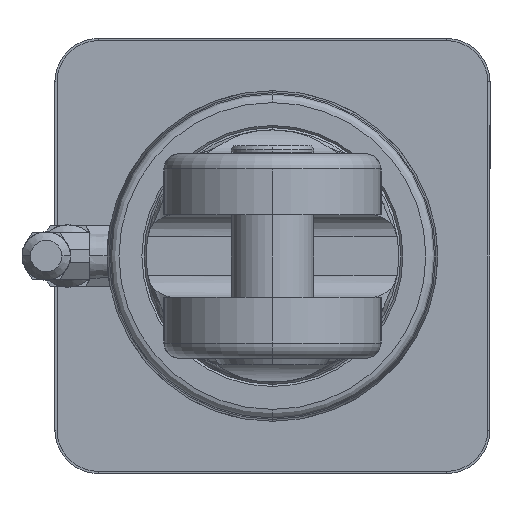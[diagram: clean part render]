
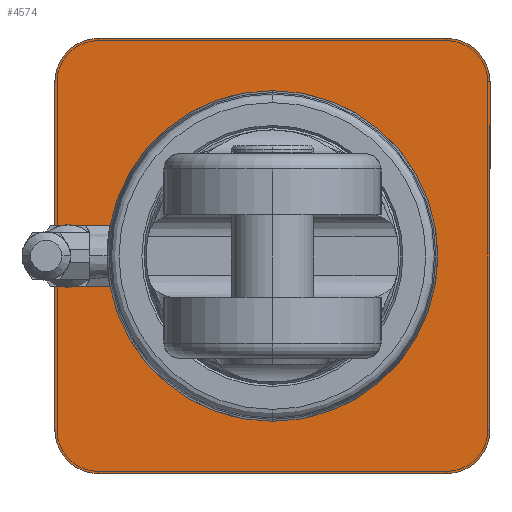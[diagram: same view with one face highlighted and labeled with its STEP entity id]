
A CAD part, left-side view. The second image highlights one B-rep face of the part: STEP entity #4574.
In plain terms, the highlighted planar face has unit normal (-1, 0, 0).
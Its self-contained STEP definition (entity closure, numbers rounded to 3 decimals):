
#185 = CARTESIAN_POINT ( 'NONE',  ( 473.579, 40., 50. ) ) ;
#214 = EDGE_CURVE ( 'NONE', #4266, #6361, #3318, .T. ) ;
#319 = ORIENTED_EDGE ( 'NONE', *, *, #4061, .F. ) ;
#380 = VECTOR ( 'NONE', #8398, 1000. ) ;
#482 = DIRECTION ( 'NONE',  ( 0., 1., 0. ) ) ;
#535 = VERTEX_POINT ( 'NONE', #7492 ) ;
#565 = DIRECTION ( 'NONE',  ( 0., 1., 0. ) ) ;
#569 = CIRCLE ( 'NONE', #6003, 10. ) ;
#639 = CARTESIAN_POINT ( 'NONE',  ( 473.579, -40., -50. ) ) ;
#646 = AXIS2_PLACEMENT_3D ( 'NONE', #7760, #6356, #1307 ) ;
#704 = VECTOR ( 'NONE', #4412, 1000. ) ;
#732 = CARTESIAN_POINT ( 'NONE',  ( 473.579, 0., -35. ) ) ;
#1045 = LINE ( 'NONE', #1801, #1247 ) ;
#1073 = CARTESIAN_POINT ( 'NONE',  ( 473.579, 0., 0. ) ) ;
#1155 = AXIS2_PLACEMENT_3D ( 'NONE', #1073, #2653, #2263 ) ;
#1247 = VECTOR ( 'NONE', #565, 1000. ) ;
#1307 = DIRECTION ( 'NONE',  ( 0., 1., 0. ) ) ;
#1437 = VERTEX_POINT ( 'NONE', #4108 ) ;
#1646 = DIRECTION ( 'NONE',  ( 1., 0., 0. ) ) ;
#1714 = CARTESIAN_POINT ( 'NONE',  ( 473.579, 0., 35. ) ) ;
#1801 = CARTESIAN_POINT ( 'NONE',  ( 473.579, -40., -50. ) ) ;
#1815 = CARTESIAN_POINT ( 'NONE',  ( 473.579, -40., 50. ) ) ;
#1995 = CIRCLE ( 'NONE', #646, 10. ) ;
#1999 = FACE_BOUND ( 'NONE', #8335, .T. ) ;
#2046 = CARTESIAN_POINT ( 'NONE',  ( 473.579, 50., -40. ) ) ;
#2263 = DIRECTION ( 'NONE',  ( 0., 0., -1. ) ) ;
#2337 = AXIS2_PLACEMENT_3D ( 'NONE', #7236, #5642, #482 ) ;
#2471 = EDGE_CURVE ( 'NONE', #4474, #8539, #1995, .T. ) ;
#2518 = ORIENTED_EDGE ( 'NONE', *, *, #3132, .F. ) ;
#2653 = DIRECTION ( 'NONE',  ( 1., 0., 0. ) ) ;
#2765 = ORIENTED_EDGE ( 'NONE', *, *, #2471, .F. ) ;
#3062 = ORIENTED_EDGE ( 'NONE', *, *, #6954, .F. ) ;
#3132 = EDGE_CURVE ( 'NONE', #535, #5209, #6815, .T. ) ;
#3153 = CARTESIAN_POINT ( 'NONE',  ( 473.579, -40., 40. ) ) ;
#3156 = EDGE_CURVE ( 'NONE', #1437, #7757, #6561, .T. ) ;
#3318 = CIRCLE ( 'NONE', #1155, 35. ) ;
#3418 = ORIENTED_EDGE ( 'NONE', *, *, #3616, .T. ) ;
#3458 = CARTESIAN_POINT ( 'NONE',  ( 473.579, -40., -40. ) ) ;
#3616 = EDGE_CURVE ( 'NONE', #6361, #4266, #5733, .T. ) ;
#3690 = AXIS2_PLACEMENT_3D ( 'NONE', #3896, #1646, #8331 ) ;
#3841 = CARTESIAN_POINT ( 'NONE',  ( 473.579, 50., 40. ) ) ;
#3896 = CARTESIAN_POINT ( 'NONE',  ( 473.579, 40., 40. ) ) ;
#3908 = DIRECTION ( 'NONE',  ( 1., 0., 0. ) ) ;
#3946 = DIRECTION ( 'NONE',  ( 0., 1., 0. ) ) ;
#4048 = CIRCLE ( 'NONE', #7058, 10. ) ;
#4061 = EDGE_CURVE ( 'NONE', #8539, #1437, #5812, .T. ) ;
#4108 = CARTESIAN_POINT ( 'NONE',  ( 473.579, 50., 40. ) ) ;
#4266 = VERTEX_POINT ( 'NONE', #732 ) ;
#4300 = VERTEX_POINT ( 'NONE', #6592 ) ;
#4412 = DIRECTION ( 'NONE',  ( 0., 0., -1. ) ) ;
#4474 = VERTEX_POINT ( 'NONE', #8926 ) ;
#4574 = ADVANCED_FACE ( 'NONE', ( #1999, #4601 ), #5461, .F. ) ;
#4601 = FACE_OUTER_BOUND ( 'NONE', #8829, .T. ) ;
#4858 = CARTESIAN_POINT ( 'NONE',  ( 473.579, -50., 40. ) ) ;
#5007 = ORIENTED_EDGE ( 'NONE', *, *, #3156, .F. ) ;
#5209 = VERTEX_POINT ( 'NONE', #6800 ) ;
#5461 = PLANE ( 'NONE',  #2337 ) ;
#5642 = DIRECTION ( 'NONE',  ( 1., 0., 0. ) ) ;
#5733 = CIRCLE ( 'NONE', #8784, 35. ) ;
#5812 = LINE ( 'NONE', #3841, #7153 ) ;
#5922 = EDGE_CURVE ( 'NONE', #4300, #535, #4048, .T. ) ;
#6003 = AXIS2_PLACEMENT_3D ( 'NONE', #3458, #8783, #3946 ) ;
#6136 = DIRECTION ( 'NONE',  ( 0., 0., -1. ) ) ;
#6252 = ORIENTED_EDGE ( 'NONE', *, *, #214, .T. ) ;
#6295 = EDGE_CURVE ( 'NONE', #7757, #4300, #7928, .T. ) ;
#6356 = DIRECTION ( 'NONE',  ( 1., 0., 0. ) ) ;
#6361 = VERTEX_POINT ( 'NONE', #1714 ) ;
#6543 = ORIENTED_EDGE ( 'NONE', *, *, #5922, .F. ) ;
#6552 = EDGE_CURVE ( 'NONE', #5209, #8516, #569, .T. ) ;
#6561 = CIRCLE ( 'NONE', #3690, 10. ) ;
#6592 = CARTESIAN_POINT ( 'NONE',  ( 473.579, -40., 50. ) ) ;
#6750 = ORIENTED_EDGE ( 'NONE', *, *, #6552, .F. ) ;
#6800 = CARTESIAN_POINT ( 'NONE',  ( 473.579, -50., -40. ) ) ;
#6815 = LINE ( 'NONE', #4858, #704 ) ;
#6836 = CARTESIAN_POINT ( 'NONE',  ( 473.579, 0., 0. ) ) ;
#6954 = EDGE_CURVE ( 'NONE', #8516, #4474, #1045, .T. ) ;
#7058 = AXIS2_PLACEMENT_3D ( 'NONE', #3153, #8671, #7976 ) ;
#7153 = VECTOR ( 'NONE', #8546, 1000. ) ;
#7236 = CARTESIAN_POINT ( 'NONE',  ( 473.579, 0., 50. ) ) ;
#7492 = CARTESIAN_POINT ( 'NONE',  ( 473.579, -50., 40. ) ) ;
#7757 = VERTEX_POINT ( 'NONE', #185 ) ;
#7760 = CARTESIAN_POINT ( 'NONE',  ( 473.579, 40., -40. ) ) ;
#7928 = LINE ( 'NONE', #1815, #380 ) ;
#7976 = DIRECTION ( 'NONE',  ( 0., 1., 0. ) ) ;
#7983 = ORIENTED_EDGE ( 'NONE', *, *, #6295, .F. ) ;
#8331 = DIRECTION ( 'NONE',  ( 0., -1., 0. ) ) ;
#8335 = EDGE_LOOP ( 'NONE', ( #3418, #6252 ) ) ;
#8398 = DIRECTION ( 'NONE',  ( 0., -1., 0. ) ) ;
#8516 = VERTEX_POINT ( 'NONE', #639 ) ;
#8539 = VERTEX_POINT ( 'NONE', #2046 ) ;
#8546 = DIRECTION ( 'NONE',  ( 0., 0., 1. ) ) ;
#8671 = DIRECTION ( 'NONE',  ( 1., 0., 0. ) ) ;
#8783 = DIRECTION ( 'NONE',  ( 1., 0., 0. ) ) ;
#8784 = AXIS2_PLACEMENT_3D ( 'NONE', #6836, #3908, #6136 ) ;
#8829 = EDGE_LOOP ( 'NONE', ( #7983, #5007, #319, #2765, #3062, #6750, #2518, #6543 ) ) ;
#8926 = CARTESIAN_POINT ( 'NONE',  ( 473.579, 40., -50. ) ) ;
